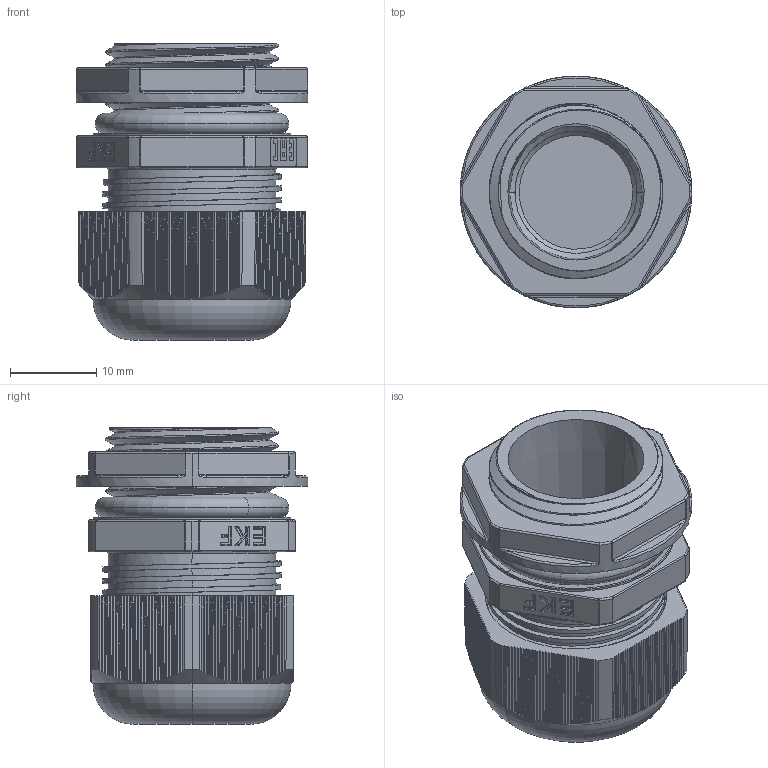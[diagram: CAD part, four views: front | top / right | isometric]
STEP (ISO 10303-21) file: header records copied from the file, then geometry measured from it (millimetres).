
FILE_DESCRIPTION (( 'STEP AP203' ), '1' );
FILE_NAME ('plc-pg-16-00.00.000ÑÁ Ñàëüíèê PG16 #cable gland PG16#.STEP', '2024-02-27T07:37:45', ( '' ), ( '' ), 'SwSTEP 2.0', 'SolidWorks 2021', '' );
FILE_SCHEMA (( 'CONFIG_CONTROL_DESIGN' ));
Length unit declared in the file: millimetre
Products named in the file (6): plc-pg-16-00.00.003 Ãàéêà ïðèæèìíàÿ (PG16-Ì20) #clamping nut (PG16-M20)#; plc-pg-16-00.00.002 Ãàéêà öàíãîâàÿ (PG16) #collet nut (PG16)#; plc-pg-16-00.00.004 Óïëîòíèòåëü (PG16) #sealant (PG16)#_¤®à ¡®âª ; plc-pg-16-00.00.005 ﾌ瑙趺 (PG16) #sealing ring (PG16)#; plc-pg-16-00.00.001 昢膼瘔 (PG16) #base (PG16)#; plc-pg-16-00.00.000ÑÁ Ñàëüíèê PG16 #cable gland PG16#
Assembly tree (5 placements, depth 2):
  plc-pg-16-00.00.000ÑÁ Ñàëüíèê PG16 #cable gland PG16#
    plc-pg-16-00.00.001 昢膼瘔 (PG16) #base (PG16)#
    plc-pg-16-00.00.002 Ãàéêà öàíãîâàÿ (PG16) #collet nut (PG16)#
    plc-pg-16-00.00.003 Ãàéêà ïðèæèìíàÿ (PG16-Ì20) #clamping nut (PG16-M20)#
    plc-pg-16-00.00.004 Óïëîòíèòåëü (PG16) #sealant (PG16)#_¤®à ¡®âª 
    plc-pg-16-00.00.005 ﾌ瑙趺 (PG16) #sealing ring (PG16)#
Bounding box: 26.87 x 26.87 x 34.32 mm (x, y, z)
Volume: 7479.9 mm3; surface area: 11553.7 mm2
Topology: 5 solids, 9 shells, 1252 faces, 3462 edges, 2215 vertices
Faces by surface type: plane 731, cylinder 148, cone 140, bspline 131, torus 88, sphere 14
Entity records: 57754 total; most frequent: CARTESIAN_POINT 28086, ORIENTED_EDGE 6876, DIRECTION 4940, EDGE_CURVE 3438, VERTEX_POINT 2215, AXIS2_PLACEMENT_3D 1661, VECTOR 1618, LINE 1618
